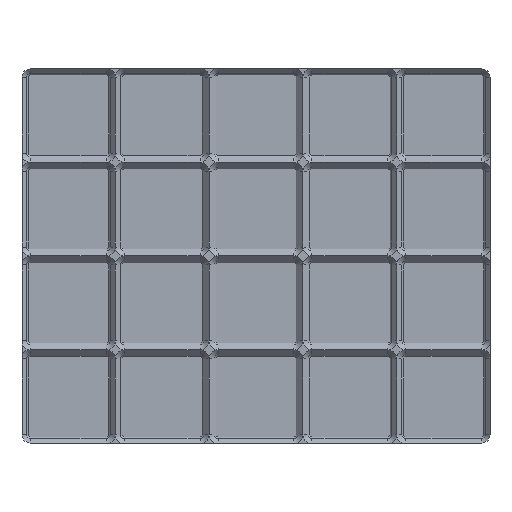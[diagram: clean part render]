
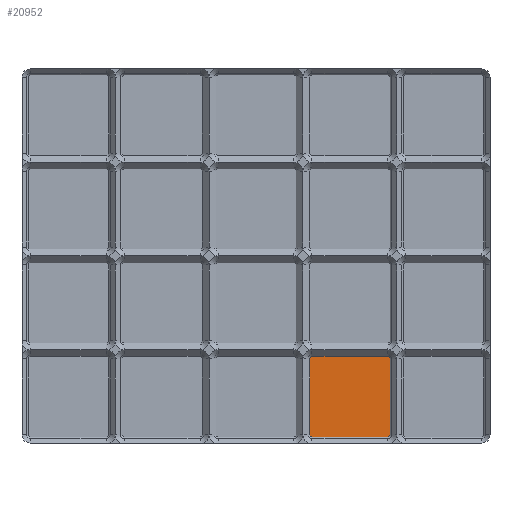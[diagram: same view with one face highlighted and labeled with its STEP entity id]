
A CAD part, top view. The second image highlights one B-rep face of the part: STEP entity #20952.
In plain terms, the highlighted planar face has unit normal (0, 0, 1).
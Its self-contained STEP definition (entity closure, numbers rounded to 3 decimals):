
#10562 = CONICAL_SURFACE('',#10563,1.05,0.785);
#10563 = AXIS2_PLACEMENT_3D('',#10564,#10565,#10566);
#10564 = CARTESIAN_POINT('',(59.,-80.,0.1));
#10565 = DIRECTION('',(-0.,-0.,1.));
#10566 = DIRECTION('',(-1.,0.,0.));
#10630 = PLANE('',#10631);
#10631 = AXIS2_PLACEMENT_3D('',#10632,#10633,#10634);
#10632 = CARTESIAN_POINT('',(42.,-81.85,0.9));
#10633 = DIRECTION('',(0.,-0.707,-0.707));
#10634 = DIRECTION('',(1.,0.,0.));
#10760 = CONICAL_SURFACE('',#10761,1.05,0.785);
#10761 = AXIS2_PLACEMENT_3D('',#10762,#10763,#10764);
#10762 = CARTESIAN_POINT('',(25.,-80.,0.1));
#10763 = DIRECTION('',(-0.,-0.,1.));
#10764 = DIRECTION('',(-1.,0.,0.));
#15646 = PLANE('',#15647);
#15647 = AXIS2_PLACEMENT_3D('',#15648,#15649,#15650);
#15648 = CARTESIAN_POINT('',(60.85,-63.,0.9));
#15649 = DIRECTION('',(0.707,0.,-0.707));
#15650 = DIRECTION('',(0.,1.,0.));
#15766 = EDGE_CURVE('',#15767,#15769,#15771,.T.);
#15767 = VERTEX_POINT('',#15768);
#15768 = CARTESIAN_POINT('',(60.05,-80.,0.1));
#15769 = VERTEX_POINT('',#15770);
#15770 = CARTESIAN_POINT('',(59.,-81.05,0.1));
#15771 = SURFACE_CURVE('',#15772,(#15777,#15784),.PCURVE_S1.);
#15772 = CIRCLE('',#15773,1.05);
#15773 = AXIS2_PLACEMENT_3D('',#15774,#15775,#15776);
#15774 = CARTESIAN_POINT('',(59.,-80.,0.1));
#15775 = DIRECTION('',(0.,0.,-1.));
#15776 = DIRECTION('',(-1.,0.,0.));
#15777 = PCURVE('',#10562,#15778);
#15778 = DEFINITIONAL_REPRESENTATION('',(#15779),#15783);
#15779 = LINE('',#15780,#15781);
#15780 = CARTESIAN_POINT('',(6.283,0.));
#15781 = VECTOR('',#15782,1.);
#15782 = DIRECTION('',(-1.,0.));
#15783 = ( GEOMETRIC_REPRESENTATION_CONTEXT(2) 
PARAMETRIC_REPRESENTATION_CONTEXT() REPRESENTATION_CONTEXT('2D SPACE',''
  ) );
#15784 = PCURVE('',#15785,#15790);
#15785 = PLANE('',#15786);
#15786 = AXIS2_PLACEMENT_3D('',#15787,#15788,#15789);
#15787 = CARTESIAN_POINT('',(25.,-80.,0.1));
#15788 = DIRECTION('',(0.,0.,-1.));
#15789 = DIRECTION('',(-1.,0.,0.));
#15790 = DEFINITIONAL_REPRESENTATION('',(#15791),#15795);
#15791 = CIRCLE('',#15792,1.05);
#15792 = AXIS2_PLACEMENT_2D('',#15793,#15794);
#15793 = CARTESIAN_POINT('',(-34.,0.));
#15794 = DIRECTION('',(1.,0.));
#15795 = ( GEOMETRIC_REPRESENTATION_CONTEXT(2) 
PARAMETRIC_REPRESENTATION_CONTEXT() REPRESENTATION_CONTEXT('2D SPACE',''
  ) );
#15837 = EDGE_CURVE('',#15838,#15769,#15840,.T.);
#15838 = VERTEX_POINT('',#15839);
#15839 = CARTESIAN_POINT('',(25.,-81.05,0.1));
#15840 = SURFACE_CURVE('',#15841,(#15845,#15852),.PCURVE_S1.);
#15841 = LINE('',#15842,#15843);
#15842 = CARTESIAN_POINT('',(42.,-81.05,0.1));
#15843 = VECTOR('',#15844,1.);
#15844 = DIRECTION('',(1.,0.,0.));
#15845 = PCURVE('',#10630,#15846);
#15846 = DEFINITIONAL_REPRESENTATION('',(#15847),#15851);
#15847 = LINE('',#15848,#15849);
#15848 = CARTESIAN_POINT('',(0.,-1.131));
#15849 = VECTOR('',#15850,1.);
#15850 = DIRECTION('',(1.,0.));
#15851 = ( GEOMETRIC_REPRESENTATION_CONTEXT(2) 
PARAMETRIC_REPRESENTATION_CONTEXT() REPRESENTATION_CONTEXT('2D SPACE',''
  ) );
#15852 = PCURVE('',#15785,#15853);
#15853 = DEFINITIONAL_REPRESENTATION('',(#15854),#15858);
#15854 = LINE('',#15855,#15856);
#15855 = CARTESIAN_POINT('',(-17.,-1.05));
#15856 = VECTOR('',#15857,1.);
#15857 = DIRECTION('',(-1.,0.));
#15858 = ( GEOMETRIC_REPRESENTATION_CONTEXT(2) 
PARAMETRIC_REPRESENTATION_CONTEXT() REPRESENTATION_CONTEXT('2D SPACE',''
  ) );
#15899 = PLANE('',#15900);
#15900 = AXIS2_PLACEMENT_3D('',#15901,#15902,#15903);
#15901 = CARTESIAN_POINT('',(23.15,-63.,0.9));
#15902 = DIRECTION('',(-0.707,0.,-0.707));
#15903 = DIRECTION('',(0.,-1.,-0.));
#16014 = EDGE_CURVE('',#15838,#16015,#16017,.T.);
#16015 = VERTEX_POINT('',#16016);
#16016 = CARTESIAN_POINT('',(23.95,-80.,0.1));
#16017 = SURFACE_CURVE('',#16018,(#16023,#16030),.PCURVE_S1.);
#16018 = CIRCLE('',#16019,1.05);
#16019 = AXIS2_PLACEMENT_3D('',#16020,#16021,#16022);
#16020 = CARTESIAN_POINT('',(25.,-80.,0.1));
#16021 = DIRECTION('',(0.,0.,-1.));
#16022 = DIRECTION('',(-1.,0.,0.));
#16023 = PCURVE('',#10760,#16024);
#16024 = DEFINITIONAL_REPRESENTATION('',(#16025),#16029);
#16025 = LINE('',#16026,#16027);
#16026 = CARTESIAN_POINT('',(6.283,0.));
#16027 = VECTOR('',#16028,1.);
#16028 = DIRECTION('',(-1.,0.));
#16029 = ( GEOMETRIC_REPRESENTATION_CONTEXT(2) 
PARAMETRIC_REPRESENTATION_CONTEXT() REPRESENTATION_CONTEXT('2D SPACE',''
  ) );
#16030 = PCURVE('',#15785,#16031);
#16031 = DEFINITIONAL_REPRESENTATION('',(#16032),#16036);
#16032 = CIRCLE('',#16033,1.05);
#16033 = AXIS2_PLACEMENT_2D('',#16034,#16035);
#16034 = CARTESIAN_POINT('',(0.,0.));
#16035 = DIRECTION('',(1.,0.));
#16036 = ( GEOMETRIC_REPRESENTATION_CONTEXT(2) 
PARAMETRIC_REPRESENTATION_CONTEXT() REPRESENTATION_CONTEXT('2D SPACE',''
  ) );
#20749 = EDGE_CURVE('',#15767,#20750,#20752,.T.);
#20750 = VERTEX_POINT('',#20751);
#20751 = CARTESIAN_POINT('',(60.05,-46.,0.1));
#20752 = SURFACE_CURVE('',#20753,(#20757,#20764),.PCURVE_S1.);
#20753 = LINE('',#20754,#20755);
#20754 = CARTESIAN_POINT('',(60.05,-63.,0.1));
#20755 = VECTOR('',#20756,1.);
#20756 = DIRECTION('',(0.,1.,0.));
#20757 = PCURVE('',#15646,#20758);
#20758 = DEFINITIONAL_REPRESENTATION('',(#20759),#20763);
#20759 = LINE('',#20760,#20761);
#20760 = CARTESIAN_POINT('',(0.,-1.131));
#20761 = VECTOR('',#20762,1.);
#20762 = DIRECTION('',(1.,0.));
#20763 = ( GEOMETRIC_REPRESENTATION_CONTEXT(2) 
PARAMETRIC_REPRESENTATION_CONTEXT() REPRESENTATION_CONTEXT('2D SPACE',''
  ) );
#20764 = PCURVE('',#15785,#20765);
#20765 = DEFINITIONAL_REPRESENTATION('',(#20766),#20770);
#20766 = LINE('',#20767,#20768);
#20767 = CARTESIAN_POINT('',(-35.05,17.));
#20768 = VECTOR('',#20769,1.);
#20769 = DIRECTION('',(0.,1.));
#20770 = ( GEOMETRIC_REPRESENTATION_CONTEXT(2) 
PARAMETRIC_REPRESENTATION_CONTEXT() REPRESENTATION_CONTEXT('2D SPACE',''
  ) );
#20784 = CONICAL_SURFACE('',#20785,1.05,0.785);
#20785 = AXIS2_PLACEMENT_3D('',#20786,#20787,#20788);
#20786 = CARTESIAN_POINT('',(59.,-46.,0.1));
#20787 = DIRECTION('',(-0.,-0.,1.));
#20788 = DIRECTION('',(-1.,0.,0.));
#20952 = ADVANCED_FACE('',(#20953),#15785,.F.);
#20953 = FACE_BOUND('',#20954,.T.);
#20954 = EDGE_LOOP('',(#20955,#20978,#20979,#20980,#20981,#20982,#21006,
    #21034));
#20955 = ORIENTED_EDGE('',*,*,#20956,.F.);
#20956 = EDGE_CURVE('',#16015,#20957,#20959,.T.);
#20957 = VERTEX_POINT('',#20958);
#20958 = CARTESIAN_POINT('',(23.95,-46.,0.1));
#20959 = SURFACE_CURVE('',#20960,(#20964,#20971),.PCURVE_S1.);
#20960 = LINE('',#20961,#20962);
#20961 = CARTESIAN_POINT('',(23.95,-63.,0.1));
#20962 = VECTOR('',#20963,1.);
#20963 = DIRECTION('',(0.,1.,0.));
#20964 = PCURVE('',#15785,#20965);
#20965 = DEFINITIONAL_REPRESENTATION('',(#20966),#20970);
#20966 = LINE('',#20967,#20968);
#20967 = CARTESIAN_POINT('',(1.05,17.));
#20968 = VECTOR('',#20969,1.);
#20969 = DIRECTION('',(0.,1.));
#20970 = ( GEOMETRIC_REPRESENTATION_CONTEXT(2) 
PARAMETRIC_REPRESENTATION_CONTEXT() REPRESENTATION_CONTEXT('2D SPACE',''
  ) );
#20971 = PCURVE('',#15899,#20972);
#20972 = DEFINITIONAL_REPRESENTATION('',(#20973),#20977);
#20973 = LINE('',#20974,#20975);
#20974 = CARTESIAN_POINT('',(0.,-1.131));
#20975 = VECTOR('',#20976,1.);
#20976 = DIRECTION('',(-1.,0.));
#20977 = ( GEOMETRIC_REPRESENTATION_CONTEXT(2) 
PARAMETRIC_REPRESENTATION_CONTEXT() REPRESENTATION_CONTEXT('2D SPACE',''
  ) );
#20978 = ORIENTED_EDGE('',*,*,#16014,.F.);
#20979 = ORIENTED_EDGE('',*,*,#15837,.T.);
#20980 = ORIENTED_EDGE('',*,*,#15766,.F.);
#20981 = ORIENTED_EDGE('',*,*,#20749,.T.);
#20982 = ORIENTED_EDGE('',*,*,#20983,.F.);
#20983 = EDGE_CURVE('',#20984,#20750,#20986,.T.);
#20984 = VERTEX_POINT('',#20985);
#20985 = CARTESIAN_POINT('',(59.,-44.95,0.1));
#20986 = SURFACE_CURVE('',#20987,(#20992,#20999),.PCURVE_S1.);
#20987 = CIRCLE('',#20988,1.05);
#20988 = AXIS2_PLACEMENT_3D('',#20989,#20990,#20991);
#20989 = CARTESIAN_POINT('',(59.,-46.,0.1));
#20990 = DIRECTION('',(0.,0.,-1.));
#20991 = DIRECTION('',(-1.,0.,0.));
#20992 = PCURVE('',#15785,#20993);
#20993 = DEFINITIONAL_REPRESENTATION('',(#20994),#20998);
#20994 = CIRCLE('',#20995,1.05);
#20995 = AXIS2_PLACEMENT_2D('',#20996,#20997);
#20996 = CARTESIAN_POINT('',(-34.,34.));
#20997 = DIRECTION('',(1.,0.));
#20998 = ( GEOMETRIC_REPRESENTATION_CONTEXT(2) 
PARAMETRIC_REPRESENTATION_CONTEXT() REPRESENTATION_CONTEXT('2D SPACE',''
  ) );
#20999 = PCURVE('',#20784,#21000);
#21000 = DEFINITIONAL_REPRESENTATION('',(#21001),#21005);
#21001 = LINE('',#21002,#21003);
#21002 = CARTESIAN_POINT('',(6.283,0.));
#21003 = VECTOR('',#21004,1.);
#21004 = DIRECTION('',(-1.,0.));
#21005 = ( GEOMETRIC_REPRESENTATION_CONTEXT(2) 
PARAMETRIC_REPRESENTATION_CONTEXT() REPRESENTATION_CONTEXT('2D SPACE',''
  ) );
#21006 = ORIENTED_EDGE('',*,*,#21007,.F.);
#21007 = EDGE_CURVE('',#21008,#20984,#21010,.T.);
#21008 = VERTEX_POINT('',#21009);
#21009 = CARTESIAN_POINT('',(25.,-44.95,0.1));
#21010 = SURFACE_CURVE('',#21011,(#21015,#21022),.PCURVE_S1.);
#21011 = LINE('',#21012,#21013);
#21012 = CARTESIAN_POINT('',(42.,-44.95,0.1));
#21013 = VECTOR('',#21014,1.);
#21014 = DIRECTION('',(1.,0.,0.));
#21015 = PCURVE('',#15785,#21016);
#21016 = DEFINITIONAL_REPRESENTATION('',(#21017),#21021);
#21017 = LINE('',#21018,#21019);
#21018 = CARTESIAN_POINT('',(-17.,35.05));
#21019 = VECTOR('',#21020,1.);
#21020 = DIRECTION('',(-1.,0.));
#21021 = ( GEOMETRIC_REPRESENTATION_CONTEXT(2) 
PARAMETRIC_REPRESENTATION_CONTEXT() REPRESENTATION_CONTEXT('2D SPACE',''
  ) );
#21022 = PCURVE('',#21023,#21028);
#21023 = PLANE('',#21024);
#21024 = AXIS2_PLACEMENT_3D('',#21025,#21026,#21027);
#21025 = CARTESIAN_POINT('',(42.,-44.15,0.9));
#21026 = DIRECTION('',(0.,0.707,-0.707));
#21027 = DIRECTION('',(-1.,0.,-0.));
#21028 = DEFINITIONAL_REPRESENTATION('',(#21029),#21033);
#21029 = LINE('',#21030,#21031);
#21030 = CARTESIAN_POINT('',(0.,-1.131));
#21031 = VECTOR('',#21032,1.);
#21032 = DIRECTION('',(-1.,0.));
#21033 = ( GEOMETRIC_REPRESENTATION_CONTEXT(2) 
PARAMETRIC_REPRESENTATION_CONTEXT() REPRESENTATION_CONTEXT('2D SPACE',''
  ) );
#21034 = ORIENTED_EDGE('',*,*,#21035,.F.);
#21035 = EDGE_CURVE('',#20957,#21008,#21036,.T.);
#21036 = SURFACE_CURVE('',#21037,(#21042,#21049),.PCURVE_S1.);
#21037 = CIRCLE('',#21038,1.05);
#21038 = AXIS2_PLACEMENT_3D('',#21039,#21040,#21041);
#21039 = CARTESIAN_POINT('',(25.,-46.,0.1));
#21040 = DIRECTION('',(0.,0.,-1.));
#21041 = DIRECTION('',(-1.,0.,0.));
#21042 = PCURVE('',#15785,#21043);
#21043 = DEFINITIONAL_REPRESENTATION('',(#21044),#21048);
#21044 = CIRCLE('',#21045,1.05);
#21045 = AXIS2_PLACEMENT_2D('',#21046,#21047);
#21046 = CARTESIAN_POINT('',(0.,34.));
#21047 = DIRECTION('',(1.,0.));
#21048 = ( GEOMETRIC_REPRESENTATION_CONTEXT(2) 
PARAMETRIC_REPRESENTATION_CONTEXT() REPRESENTATION_CONTEXT('2D SPACE',''
  ) );
#21049 = PCURVE('',#21050,#21055);
#21050 = CONICAL_SURFACE('',#21051,1.05,0.785);
#21051 = AXIS2_PLACEMENT_3D('',#21052,#21053,#21054);
#21052 = CARTESIAN_POINT('',(25.,-46.,0.1));
#21053 = DIRECTION('',(-0.,-0.,1.));
#21054 = DIRECTION('',(-1.,0.,0.));
#21055 = DEFINITIONAL_REPRESENTATION('',(#21056),#21060);
#21056 = LINE('',#21057,#21058);
#21057 = CARTESIAN_POINT('',(6.283,0.));
#21058 = VECTOR('',#21059,1.);
#21059 = DIRECTION('',(-1.,0.));
#21060 = ( GEOMETRIC_REPRESENTATION_CONTEXT(2) 
PARAMETRIC_REPRESENTATION_CONTEXT() REPRESENTATION_CONTEXT('2D SPACE',''
  ) );
